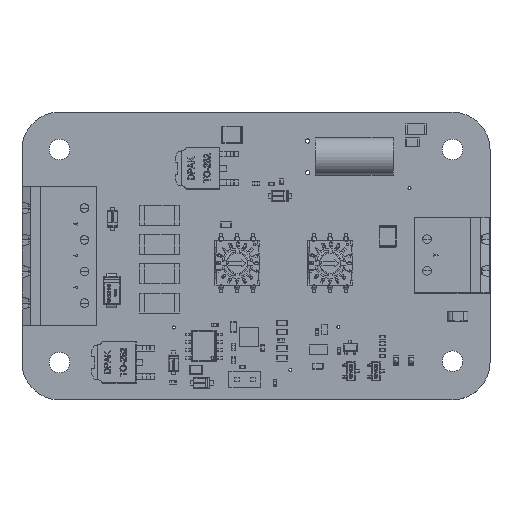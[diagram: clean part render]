
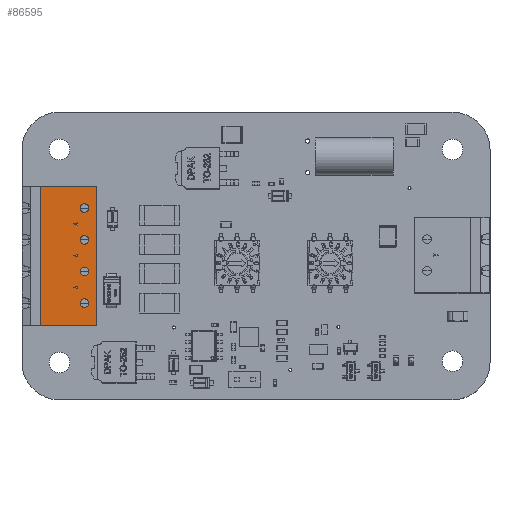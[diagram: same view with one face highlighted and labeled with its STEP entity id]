
A CAD part, top view. The second image highlights one B-rep face of the part: STEP entity #86595.
In plain terms, the highlighted planar face has unit normal (0, 0, 1) as drawn and (0, 1, 0) by its records, which use the part's own axes.
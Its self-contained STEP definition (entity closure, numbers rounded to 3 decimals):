
#77700 = VERTEX_POINT('',#77701);
#77701 = CARTESIAN_POINT('',(45.627,45.443,3.54));
#77707 = EDGE_CURVE('',#77708,#77700,#77710,.T.);
#77708 = VERTEX_POINT('',#77709);
#77709 = CARTESIAN_POINT('',(36.627,45.443,3.54));
#77710 = LINE('',#77711,#77712);
#77711 = CARTESIAN_POINT('',(0.,45.443,3.54));
#77712 = VECTOR('',#77713,1.);
#77713 = DIRECTION('',(1.,0.,0.));
#79375 = EDGE_CURVE('',#79376,#79378,#79380,.T.);
#79376 = VERTEX_POINT('',#79377);
#79377 = CARTESIAN_POINT('',(39.327,45.443,0.));
#79378 = VERTEX_POINT('',#79379);
#79379 = CARTESIAN_POINT('',(37.927,45.443,0.));
#79380 = CIRCLE('',#79381,0.7);
#79381 = AXIS2_PLACEMENT_3D('',#79382,#79383,#79384);
#79382 = CARTESIAN_POINT('',(38.627,45.443,
    0.));
#79383 = DIRECTION('',(0.,-1.,0.));
#79384 = DIRECTION('',(1.,0.,0.));
#80152 = EDGE_CURVE('',#80153,#80155,#80157,.T.);
#80153 = VERTEX_POINT('',#80154);
#80154 = CARTESIAN_POINT('',(39.327,45.443,-10.16));
#80155 = VERTEX_POINT('',#80156);
#80156 = CARTESIAN_POINT('',(37.927,45.443,-10.16));
#80157 = CIRCLE('',#80158,0.7);
#80158 = AXIS2_PLACEMENT_3D('',#80159,#80160,#80161);
#80159 = CARTESIAN_POINT('',(38.627,45.443,-10.16));
#80160 = DIRECTION('',(0.,-1.,0.));
#80161 = DIRECTION('',(1.,0.,0.));
#81361 = EDGE_CURVE('',#79378,#79376,#81362,.T.);
#81362 = CIRCLE('',#81363,0.7);
#81363 = AXIS2_PLACEMENT_3D('',#81364,#81365,#81366);
#81364 = CARTESIAN_POINT('',(38.627,45.443,
    0.));
#81365 = DIRECTION('',(0.,-1.,0.));
#81366 = DIRECTION('',(1.,0.,0.));
#82791 = VERTEX_POINT('',#82792);
#82792 = CARTESIAN_POINT('',(40.427,45.443,-12.7));
#82809 = VERTEX_POINT('',#82810);
#82810 = CARTESIAN_POINT('',(39.677,45.443,
    -12.499));
#82816 = EDGE_CURVE('',#82809,#82791,#82817,.T.);
#82817 = LINE('',#82818,#82819);
#82818 = CARTESIAN_POINT('',(0.,45.443,-1.868));
#82819 = VECTOR('',#82820,1.);
#82820 = DIRECTION('',(0.966,0.,-0.259));
#82840 = VERTEX_POINT('',#82841);
#82841 = CARTESIAN_POINT('',(39.677,45.443,
    -12.901));
#82847 = EDGE_CURVE('',#82809,#82840,#82848,.T.);
#82848 = LINE('',#82849,#82850);
#82849 = CARTESIAN_POINT('',(39.677,45.443,-10.16));
#82850 = VECTOR('',#82851,1.);
#82851 = DIRECTION('',(0.,0.,-1.));
#82869 = EDGE_CURVE('',#82840,#82791,#82870,.T.);
#82870 = LINE('',#82871,#82872);
#82871 = CARTESIAN_POINT('',(0.,45.443,-23.532));
#82872 = VECTOR('',#82873,1.);
#82873 = DIRECTION('',(0.966,0.,0.259));
#83078 = EDGE_CURVE('',#77708,#83079,#83081,.T.);
#83079 = VERTEX_POINT('',#83080);
#83080 = CARTESIAN_POINT('',(36.627,45.443,-18.78));
#83081 = LINE('',#83082,#83083);
#83082 = CARTESIAN_POINT('',(36.627,45.443,-10.16));
#83083 = VECTOR('',#83084,1.);
#83084 = DIRECTION('',(0.,0.,-1.));
#83406 = EDGE_CURVE('',#83079,#83407,#83409,.T.);
#83407 = VERTEX_POINT('',#83408);
#83408 = CARTESIAN_POINT('',(45.627,45.443,-18.78));
#83409 = LINE('',#83410,#83411);
#83410 = CARTESIAN_POINT('',(0.,45.443,-18.78));
#83411 = VECTOR('',#83412,1.);
#83412 = DIRECTION('',(1.,0.,0.));
#85867 = EDGE_CURVE('',#85868,#85870,#85872,.T.);
#85868 = VERTEX_POINT('',#85869);
#85869 = CARTESIAN_POINT('',(39.327,45.443,-15.24));
#85870 = VERTEX_POINT('',#85871);
#85871 = CARTESIAN_POINT('',(37.927,45.443,-15.24));
#85872 = CIRCLE('',#85873,0.7);
#85873 = AXIS2_PLACEMENT_3D('',#85874,#85875,#85876);
#85874 = CARTESIAN_POINT('',(38.627,45.443,-15.24));
#85875 = DIRECTION('',(0.,-1.,0.));
#85876 = DIRECTION('',(1.,0.,0.));
#85892 = EDGE_CURVE('',#85870,#85868,#85893,.T.);
#85893 = CIRCLE('',#85894,0.7);
#85894 = AXIS2_PLACEMENT_3D('',#85895,#85896,#85897);
#85895 = CARTESIAN_POINT('',(38.627,45.443,-15.24));
#85896 = DIRECTION('',(0.,-1.,0.));
#85897 = DIRECTION('',(1.,0.,0.));
#86498 = EDGE_CURVE('',#86499,#86501,#86503,.T.);
#86499 = VERTEX_POINT('',#86500);
#86500 = CARTESIAN_POINT('',(39.327,45.443,-5.08));
#86501 = VERTEX_POINT('',#86502);
#86502 = CARTESIAN_POINT('',(37.927,45.443,-5.08));
#86503 = CIRCLE('',#86504,0.7);
#86504 = AXIS2_PLACEMENT_3D('',#86505,#86506,#86507);
#86505 = CARTESIAN_POINT('',(38.627,45.443,-5.08));
#86506 = DIRECTION('',(0.,-1.,0.));
#86507 = DIRECTION('',(1.,0.,0.));
#86523 = EDGE_CURVE('',#86501,#86499,#86524,.T.);
#86524 = CIRCLE('',#86525,0.7);
#86525 = AXIS2_PLACEMENT_3D('',#86526,#86527,#86528);
#86526 = CARTESIAN_POINT('',(38.627,45.443,-5.08));
#86527 = DIRECTION('',(0.,-1.,0.));
#86528 = DIRECTION('',(1.,0.,0.));
#86595 = ADVANCED_FACE('',(#86596,#86600,#86626,#86630,#86656,#86660,
    #86665,#86676),#86686,.F.);
#86596 = FACE_BOUND('',#86597,.T.);
#86597 = EDGE_LOOP('',(#86598,#86599));
#86598 = ORIENTED_EDGE('',*,*,#86523,.T.);
#86599 = ORIENTED_EDGE('',*,*,#86498,.T.);
#86600 = FACE_BOUND('',#86601,.T.);
#86601 = EDGE_LOOP('',(#86602,#86612,#86620));
#86602 = ORIENTED_EDGE('',*,*,#86603,.F.);
#86603 = EDGE_CURVE('',#86604,#86606,#86608,.T.);
#86604 = VERTEX_POINT('',#86605);
#86605 = CARTESIAN_POINT('',(39.677,45.443,
    -2.339));
#86606 = VERTEX_POINT('',#86607);
#86607 = CARTESIAN_POINT('',(40.427,45.443,-2.54));
#86608 = LINE('',#86609,#86610);
#86609 = CARTESIAN_POINT('',(0.,45.443,8.292));
#86610 = VECTOR('',#86611,1.);
#86611 = DIRECTION('',(0.966,0.,-0.259));
#86612 = ORIENTED_EDGE('',*,*,#86613,.T.);
#86613 = EDGE_CURVE('',#86604,#86614,#86616,.T.);
#86614 = VERTEX_POINT('',#86615);
#86615 = CARTESIAN_POINT('',(39.677,45.443,
    -2.741));
#86616 = LINE('',#86617,#86618);
#86617 = CARTESIAN_POINT('',(39.677,45.443,0.));
#86618 = VECTOR('',#86619,1.);
#86619 = DIRECTION('',(0.,0.,-1.));
#86620 = ORIENTED_EDGE('',*,*,#86621,.T.);
#86621 = EDGE_CURVE('',#86614,#86606,#86622,.T.);
#86622 = LINE('',#86623,#86624);
#86623 = CARTESIAN_POINT('',(0.,45.443,-13.372));
#86624 = VECTOR('',#86625,1.);
#86625 = DIRECTION('',(0.966,0.,0.259));
#86626 = FACE_BOUND('',#86627,.T.);
#86627 = EDGE_LOOP('',(#86628,#86629));
#86628 = ORIENTED_EDGE('',*,*,#81361,.T.);
#86629 = ORIENTED_EDGE('',*,*,#79375,.T.);
#86630 = FACE_BOUND('',#86631,.T.);
#86631 = EDGE_LOOP('',(#86632,#86642,#86650));
#86632 = ORIENTED_EDGE('',*,*,#86633,.F.);
#86633 = EDGE_CURVE('',#86634,#86636,#86638,.T.);
#86634 = VERTEX_POINT('',#86635);
#86635 = CARTESIAN_POINT('',(39.677,45.443,
    -7.419));
#86636 = VERTEX_POINT('',#86637);
#86637 = CARTESIAN_POINT('',(40.427,45.443,-7.62));
#86638 = LINE('',#86639,#86640);
#86639 = CARTESIAN_POINT('',(0.,45.443,3.212));
#86640 = VECTOR('',#86641,1.);
#86641 = DIRECTION('',(0.966,0.,-0.259));
#86642 = ORIENTED_EDGE('',*,*,#86643,.T.);
#86643 = EDGE_CURVE('',#86634,#86644,#86646,.T.);
#86644 = VERTEX_POINT('',#86645);
#86645 = CARTESIAN_POINT('',(39.677,45.443,
    -7.821));
#86646 = LINE('',#86647,#86648);
#86647 = CARTESIAN_POINT('',(39.677,45.443,-5.08));
#86648 = VECTOR('',#86649,1.);
#86649 = DIRECTION('',(0.,0.,-1.));
#86650 = ORIENTED_EDGE('',*,*,#86651,.T.);
#86651 = EDGE_CURVE('',#86644,#86636,#86652,.T.);
#86652 = LINE('',#86653,#86654);
#86653 = CARTESIAN_POINT('',(0.,45.443,-18.452));
#86654 = VECTOR('',#86655,1.);
#86655 = DIRECTION('',(0.966,0.,0.259));
#86656 = FACE_BOUND('',#86657,.T.);
#86657 = EDGE_LOOP('',(#86658,#86659));
#86658 = ORIENTED_EDGE('',*,*,#85867,.T.);
#86659 = ORIENTED_EDGE('',*,*,#85892,.T.);
#86660 = FACE_BOUND('',#86661,.T.);
#86661 = EDGE_LOOP('',(#86662,#86663,#86664));
#86662 = ORIENTED_EDGE('',*,*,#82816,.F.);
#86663 = ORIENTED_EDGE('',*,*,#82847,.T.);
#86664 = ORIENTED_EDGE('',*,*,#82869,.T.);
#86665 = FACE_BOUND('',#86666,.T.);
#86666 = EDGE_LOOP('',(#86667,#86673,#86674,#86675));
#86667 = ORIENTED_EDGE('',*,*,#86668,.T.);
#86668 = EDGE_CURVE('',#77700,#83407,#86669,.T.);
#86669 = LINE('',#86670,#86671);
#86670 = CARTESIAN_POINT('',(45.627,45.443,-10.24));
#86671 = VECTOR('',#86672,1.);
#86672 = DIRECTION('',(0.,0.,-1.));
#86673 = ORIENTED_EDGE('',*,*,#83406,.F.);
#86674 = ORIENTED_EDGE('',*,*,#83078,.F.);
#86675 = ORIENTED_EDGE('',*,*,#77707,.T.);
#86676 = FACE_BOUND('',#86677,.T.);
#86677 = EDGE_LOOP('',(#86678,#86679));
#86678 = ORIENTED_EDGE('',*,*,#80152,.T.);
#86679 = ORIENTED_EDGE('',*,*,#86680,.T.);
#86680 = EDGE_CURVE('',#80155,#80153,#86681,.T.);
#86681 = CIRCLE('',#86682,0.7);
#86682 = AXIS2_PLACEMENT_3D('',#86683,#86684,#86685);
#86683 = CARTESIAN_POINT('',(38.627,45.443,-10.16));
#86684 = DIRECTION('',(0.,-1.,0.));
#86685 = DIRECTION('',(1.,0.,0.));
#86686 = PLANE('',#86687);
#86687 = AXIS2_PLACEMENT_3D('',#86688,#86689,#86690);
#86688 = CARTESIAN_POINT('',(40.968,45.443,
    -4.011));
#86689 = DIRECTION('',(0.,-1.,0.));
#86690 = DIRECTION('',(1.,0.,0.));
